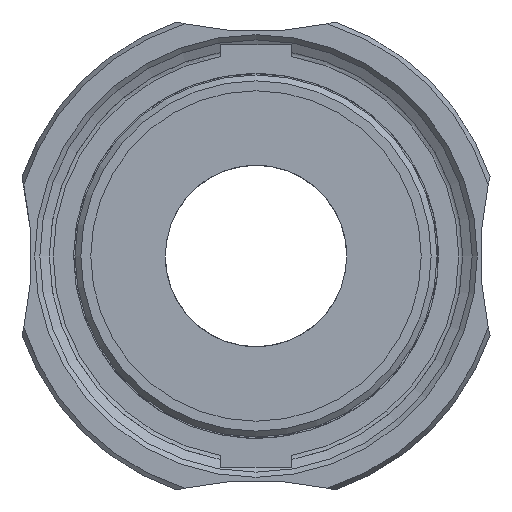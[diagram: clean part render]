
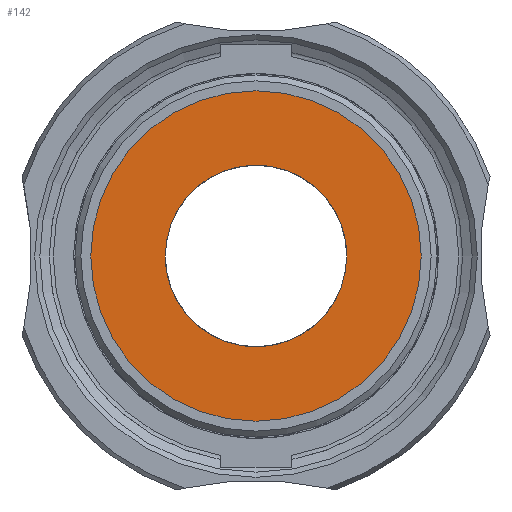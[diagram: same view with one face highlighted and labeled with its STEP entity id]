
A CAD part, front view. The second image highlights one B-rep face of the part: STEP entity #142.
In plain terms, the highlighted planar face has unit normal (0, -1, 0).
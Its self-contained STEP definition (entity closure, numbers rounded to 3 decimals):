
#142 = ADVANCED_FACE( '', ( #332, #333 ), #334, .F. );
#332 = FACE_BOUND( '', #551, .T. );
#333 = FACE_OUTER_BOUND( '', #552, .T. );
#334 = PLANE( '', #553 );
#551 = EDGE_LOOP( '', ( #1059 ) );
#552 = EDGE_LOOP( '', ( #1060 ) );
#553 = AXIS2_PLACEMENT_3D( '', #1061, #1062, #1063 );
#1059 = ORIENTED_EDGE( '', *, *, #1334, .T. );
#1060 = ORIENTED_EDGE( '', *, *, #1335, .F. );
#1061 = CARTESIAN_POINT( '', ( 0., -0.1, 0. ) );
#1062 = DIRECTION( '', ( 0., 1., 0. ) );
#1063 = DIRECTION( '', ( 0., 0., 1. ) );
#1334 = EDGE_CURVE( '', #1612, #1612, #1613, .T. );
#1335 = EDGE_CURVE( '', #1614, #1614, #1615, .T. );
#1612 = VERTEX_POINT( '', #2142 );
#1613 = CIRCLE( '', #2143, 13.951 );
#1614 = VERTEX_POINT( '', #2144 );
#1615 = CIRCLE( '', #2145, 25.42 );
#2142 = CARTESIAN_POINT( '', ( 13.951, -0.1, 0. ) );
#2143 = AXIS2_PLACEMENT_3D( '', #2414, #2415, #2416 );
#2144 = CARTESIAN_POINT( '', ( 25.42, -0.1, 0. ) );
#2145 = AXIS2_PLACEMENT_3D( '', #2417, #2418, #2419 );
#2414 = CARTESIAN_POINT( '', ( 0., -0.1, 0. ) );
#2415 = DIRECTION( '', ( 0., 1., 0. ) );
#2416 = DIRECTION( '', ( 1., 0., 0. ) );
#2417 = CARTESIAN_POINT( '', ( 0., -0.1, 0. ) );
#2418 = DIRECTION( '', ( 0., 1., 0. ) );
#2419 = DIRECTION( '', ( 1., 0., 0. ) );
